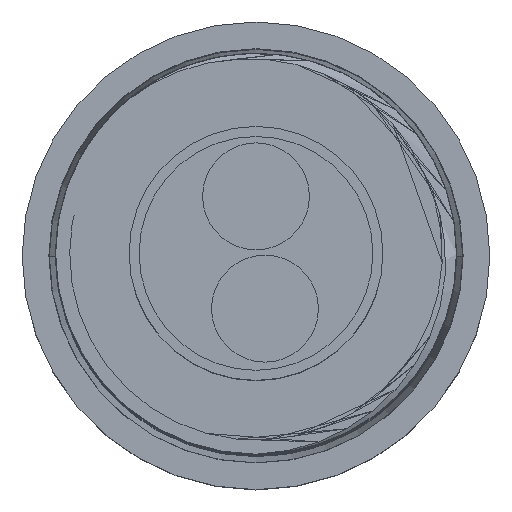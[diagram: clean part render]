
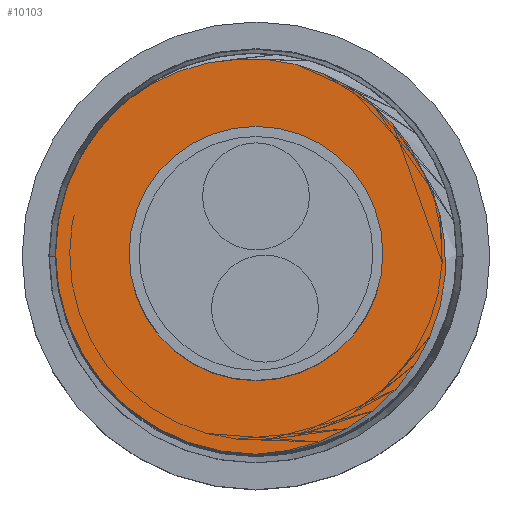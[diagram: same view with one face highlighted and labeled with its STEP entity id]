
A CAD part, top view. The second image highlights one B-rep face of the part: STEP entity #10103.
In plain terms, the highlighted planar face has unit normal (0, 0, 1).
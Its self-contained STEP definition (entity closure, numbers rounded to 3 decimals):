
#390=CARTESIAN_POINT('',(2.508,1.22,23.));
#391=CARTESIAN_POINT('',(2.421,1.419,23.));
#392=CARTESIAN_POINT('',(2.206,1.785,23.));
#393=CARTESIAN_POINT('',(1.763,2.258,23.));
#394=CARTESIAN_POINT('',(1.218,2.623,23.));
#395=CARTESIAN_POINT('',(0.608,2.856,23.));
#396=CARTESIAN_POINT('',(-0.056,2.944,23.));
#397=CARTESIAN_POINT('',(-0.716,2.882,23.));
#398=CARTESIAN_POINT('',(-1.356,2.673,23.));
#399=CARTESIAN_POINT('',(-1.747,2.438,23.));
#400=CARTESIAN_POINT('',(-1.933,2.294,23.));
#405=CARTESIAN_POINT('',(0.,0.,23.));
#406=DIRECTION('',(0.,0.,-1.));
#407=DIRECTION('',(0.,-1.,0.));
#408=AXIS2_PLACEMENT_3D('',#405,#406,#407);
#413=CARTESIAN_POINT('',(0.,0.,23.));
#414=DIRECTION('',(0.,0.,-1.));
#415=DIRECTION('',(-1.,0.,0.));
#416=AXIS2_PLACEMENT_3D('',#413,#414,#415);
#421=CARTESIAN_POINT('',(0.,0.,23.));
#422=DIRECTION('',(0.,0.,1.));
#423=DIRECTION('',(-1.,0.,0.));
#424=AXIS2_PLACEMENT_3D('',#421,#422,#423);
#429=CARTESIAN_POINT('',(0.,0.,23.));
#430=DIRECTION('',(0.,0.,1.));
#431=DIRECTION('',(1.,0.,0.));
#432=AXIS2_PLACEMENT_3D('',#429,#430,#431);
#437=CARTESIAN_POINT('',(0.,-3.,23.));
#438=CARTESIAN_POINT('',(0.226,-2.993,23.));
#439=CARTESIAN_POINT('',(0.661,-2.929,23.));
#440=CARTESIAN_POINT('',(1.28,-2.689,23.));
#441=CARTESIAN_POINT('',(1.824,-2.324,23.));
#442=CARTESIAN_POINT('',(2.288,-1.834,23.));
#443=CARTESIAN_POINT('',(2.621,-1.26,23.));
#444=CARTESIAN_POINT('',(2.813,-0.643,23.));
#445=CARTESIAN_POINT('',(2.861,0.014,23.));
#446=CARTESIAN_POINT('',(2.759,0.649,23.));
#447=CARTESIAN_POINT('',(2.607,1.035,23.));
#448=CARTESIAN_POINT('',(2.508,1.22,23.));
#5612=VERTEX_POINT('',#390);
#5613=VERTEX_POINT('',#400);
#5689=VERTEX_POINT('',#437);
#5690=CARTESIAN_POINT('',(-3.,0.,23.));
#5691=VERTEX_POINT('',#5690);
#5692=CARTESIAN_POINT('',(-1.9,0.,23.));
#5693=CARTESIAN_POINT('',(1.9,0.,23.));
#5694=VERTEX_POINT('',#5692);
#5695=VERTEX_POINT('',#5693);
#10083=CARTESIAN_POINT('',(0.,0.,23.));
#10084=DIRECTION('',(0.,0.,1.));
#10085=DIRECTION('',(1.,0.,0.));
#10086=AXIS2_PLACEMENT_3D('',#10083,#10084,#10085);
#10087=PLANE('',#10086);
#10089=ORIENTED_EDGE('',*,*,#10088,.F.);
#10091=ORIENTED_EDGE('',*,*,#10090,.T.);
#10093=ORIENTED_EDGE('',*,*,#10092,.T.);
#10094=ORIENTED_EDGE('',*,*,#9921,.F.);
#10095=EDGE_LOOP('',(#10089,#10091,#10093,#10094));
#10096=FACE_OUTER_BOUND('',#10095,.F.);
#10098=ORIENTED_EDGE('',*,*,#10097,.T.);
#10100=ORIENTED_EDGE('',*,*,#10099,.T.);
#10101=EDGE_LOOP('',(#10098,#10100));
#10102=FACE_BOUND('',#10101,.F.);
#401=B_SPLINE_CURVE_WITH_KNOTS('',3,(#390,#391,#392,#393,#394,#395,#396,#397,
#398,#399,#400),.UNSPECIFIED.,.F.,.F.,(4,1,1,1,1,1,1,1,4),(0.,0.125,0.25,
0.375,0.5,0.625,0.75,0.875,1.),.UNSPECIFIED.);
#409=CIRCLE('',#408,3.);
#417=CIRCLE('',#416,3.);
#425=CIRCLE('',#424,1.9);
#433=CIRCLE('',#432,1.9);
#449=B_SPLINE_CURVE_WITH_KNOTS('',3,(#437,#438,#439,#440,#441,#442,#443,#444,
#445,#446,#447,#448),.UNSPECIFIED.,.F.,.F.,(4,1,1,1,1,1,1,1,1,4),(0.,
0.111,0.222,0.333,0.444,
0.556,0.667,0.778,0.889,1.),
.UNSPECIFIED.);
#9921=EDGE_CURVE('',#5612,#5613,#401,.T.);
#10088=EDGE_CURVE('',#5689,#5612,#449,.T.);
#10090=EDGE_CURVE('',#5689,#5691,#409,.T.);
#10092=EDGE_CURVE('',#5691,#5613,#417,.T.);
#10097=EDGE_CURVE('',#5694,#5695,#425,.T.);
#10099=EDGE_CURVE('',#5695,#5694,#433,.T.);
#10103=ADVANCED_FACE('',(#10096,#10102),#10087,.T.);
